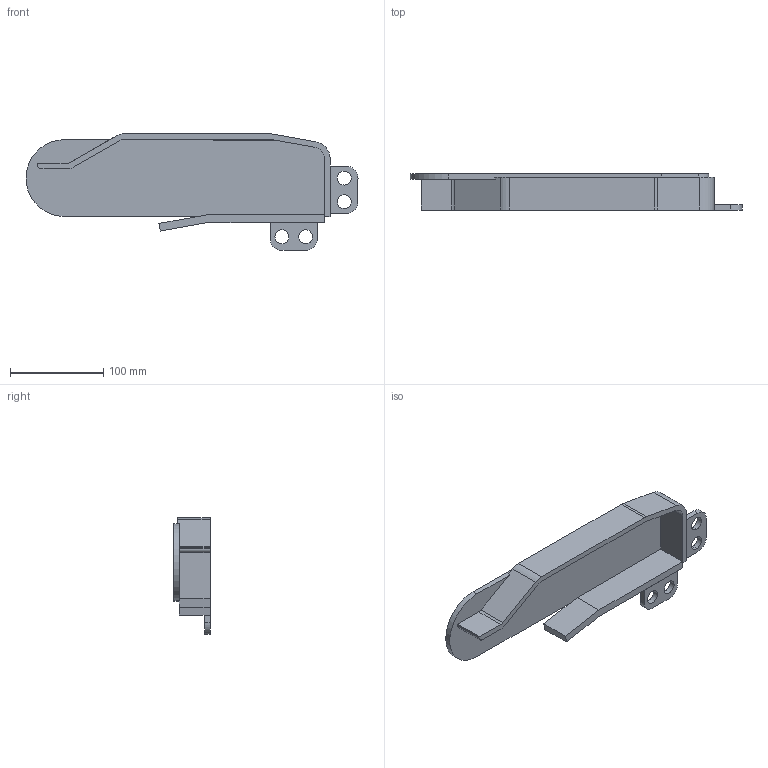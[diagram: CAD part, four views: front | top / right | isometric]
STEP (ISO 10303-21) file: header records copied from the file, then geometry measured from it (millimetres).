
FILE_DESCRIPTION (( 'STEP AP214' ), '1' );
FILE_NAME ('YYDK-500-0011 油管保护罩2（500T）.step', '2024-11-20T05:47:00', ( '' ), ( '' ), 'SwSTEP 2.0', 'SolidWorks 2020', '' );
FILE_SCHEMA (( 'AUTOMOTIVE_DESIGN' ));
Length unit declared in the file: millimetre
Products named in the file (1): YYDK-500-0011 油管保护罩2（500T）
Bounding box: 356.64 x 39.01 x 125.57 mm (x, y, z)
Volume: 295641.6 mm3; surface area: 110239.7 mm2
Topology: 5 solids, 5 shells, 64 faces, 162 edges, 108 vertices
Faces by surface type: plane 41, cylinder 23
Entity records: 2711 total; most frequent: DIRECTION 338, CARTESIAN_POINT 335, ORIENTED_EDGE 324, EDGE_CURVE 162, VECTOR 116, LINE 116, AXIS2_PLACEMENT_3D 111, VERTEX_POINT 108
